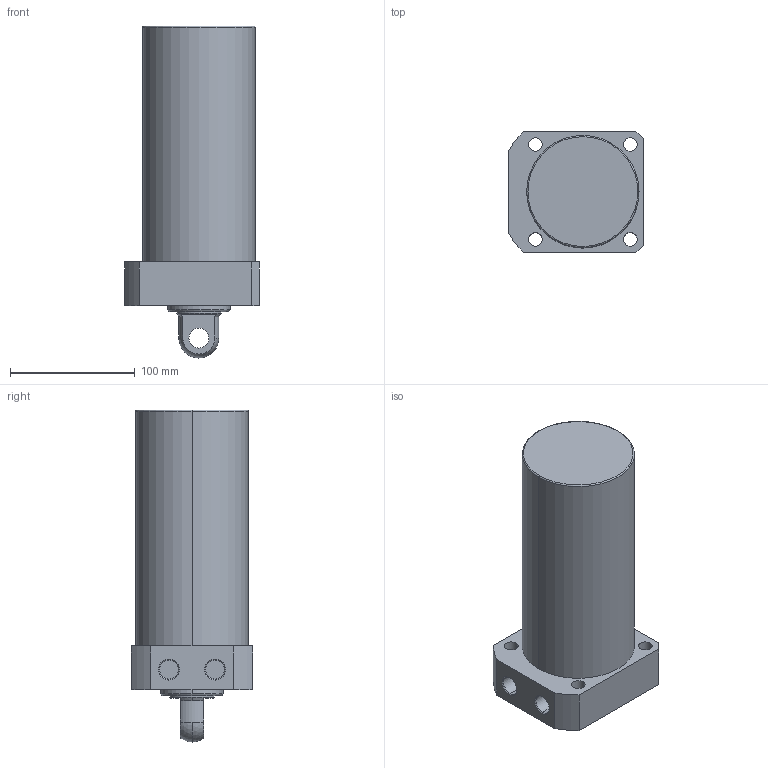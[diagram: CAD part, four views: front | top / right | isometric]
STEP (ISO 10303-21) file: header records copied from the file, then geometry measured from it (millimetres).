
FILE_DESCRIPTION (( 'STEP AP203' ), '1' );
FILE_NAME ('CLLR-090CP-145.STEP', '2019-12-18T06:59:40', ( '' ), ( '' ), 'SwSTEP 2.0', 'SolidWorks 2015', '' );
FILE_SCHEMA (( 'CONFIG_CONTROL_DESIGN' ));
Length unit declared in the file: millimetre
Products named in the file (1): CLLR-090CP-145
Bounding box: 108 x 97 x 266 mm (x, y, z)
Volume: 1566536.4 mm3; surface area: 97504.2 mm2
Topology: 1 solids, 1 shells, 59 faces, 139 edges, 89 vertices
Faces by surface type: cylinder 29, plane 18, cone 8, sphere 2, torus 2
Entity records: 1822 total; most frequent: DIRECTION 331, CARTESIAN_POINT 300, ORIENTED_EDGE 278, EDGE_CURVE 139, AXIS2_PLACEMENT_3D 136, VERTEX_POINT 89, EDGE_LOOP 76, CIRCLE 76
